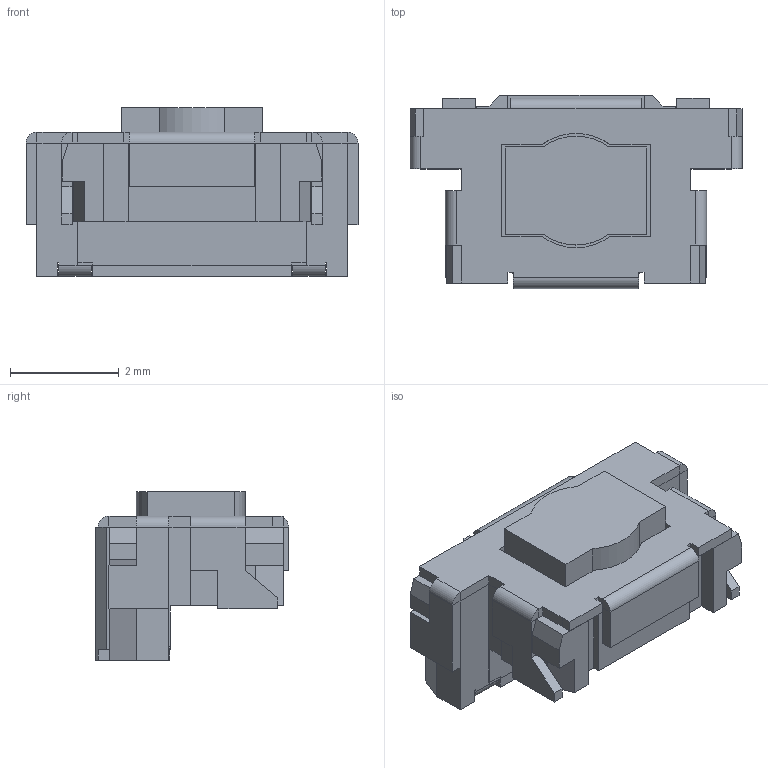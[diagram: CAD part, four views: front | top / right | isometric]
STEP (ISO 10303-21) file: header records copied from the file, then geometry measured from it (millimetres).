
FILE_DESCRIPTION((''),'2;1');
FILE_NAME('JQD3561QL-B0313-01AEG-1-105_ASM','2026-05-21T18:25:01',('Admin'),(''),'CREO PARAMETRIC BY PTC INC, 2019224','CREO PARAMETRIC BY PTC INC, 2019224','');
FILE_SCHEMA(('AUTOMOTIVE_DESIGN { 1 0 10303 214 1 1 1 1 }'));
Length unit declared in the file: millimetre
Products named in the file (3): JQD3561QL-B0313-01AEG-1-105_01; JQD3561QL-B0313-01AEG-1-105_02; JQD3561QL-B0313-01AEG-1-105_ASM
Assembly tree (2 placements, depth 2):
  JQD3561QL-B0313-01AEG-1-105_ASM
    JQD3561QL-B0313-01AEG-1-105_01
    JQD3561QL-B0313-01AEG-1-105_02
Bounding box: 6.1 x 3.55 x 3.1 mm (x, y, z)
Volume: 36 mm3; surface area: 133.1 mm2
Topology: 2 solids, 2 shells, 185 faces, 490 edges, 310 vertices
Faces by surface type: plane 173, cylinder 12
Entity records: 6787 total; most frequent: CARTESIAN_POINT 999, ORIENTED_EDGE 980, DIRECTION 898, EDGE_CURVE 490, VECTOR 466, LINE 466, VERTEX_POINT 310, PRESENTATION_STYLE_ASSIGNMENT 281
